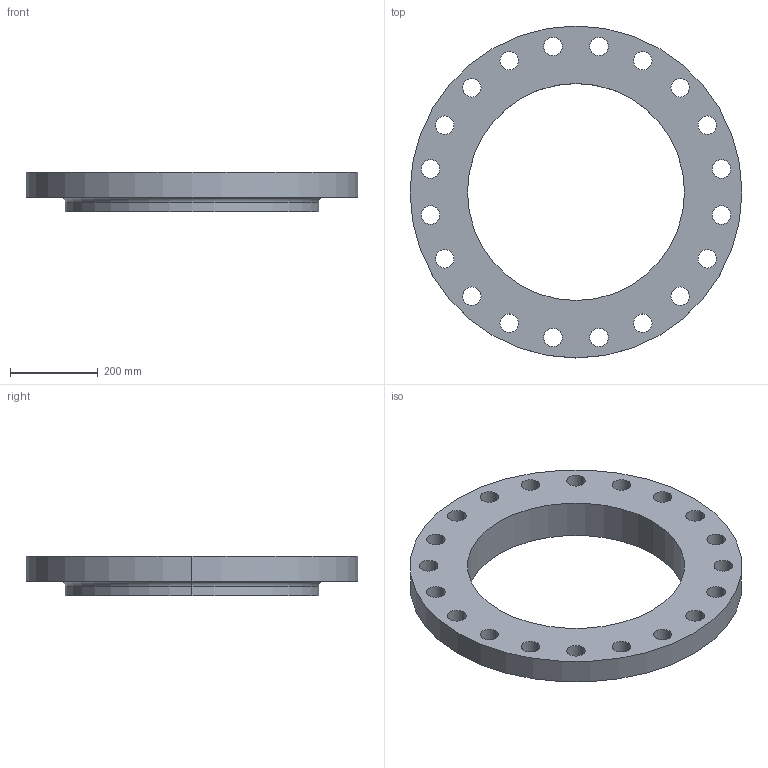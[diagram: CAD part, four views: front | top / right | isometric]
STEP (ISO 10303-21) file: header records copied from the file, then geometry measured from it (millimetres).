
FILE_DESCRIPTION (( 'STEP AP214' ), '1' );
FILE_NAME ('PN40 DN500 Type 13 - Type A Face.STEP', '2018-12-29T01:22:49', ( '' ), ( '' ), 'SwSTEP 2.0', 'SolidWorks 2019', '' );
FILE_SCHEMA (( 'AUTOMOTIVE_DESIGN' ));
Length unit declared in the file: millimetre
Products named in the file (1): PN40 DN500 Type 13 - Type A Face
Bounding box: 755 x 755 x 90 mm (x, y, z)
Volume: 15379422.4 mm3; surface area: 933025 mm2
Topology: 1 solids, 1 shells, 51 faces, 142 edges, 94 vertices
Faces by surface type: cylinder 46, plane 3, torus 2
Entity records: 1814 total; most frequent: DIRECTION 342, CARTESIAN_POINT 288, ORIENTED_EDGE 284, AXIS2_PLACEMENT_3D 148, EDGE_CURVE 142, CIRCLE 96, VERTEX_POINT 94, EDGE_LOOP 94
